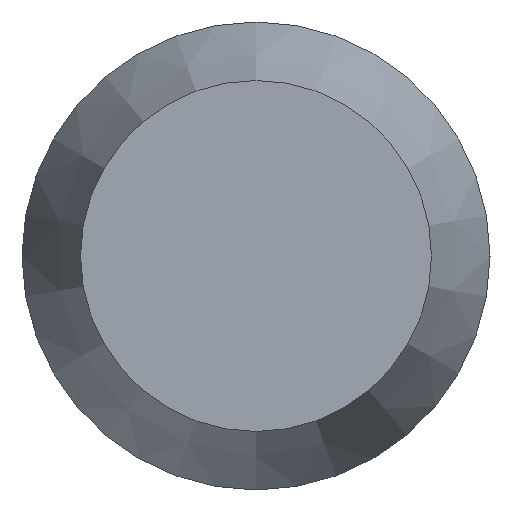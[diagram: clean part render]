
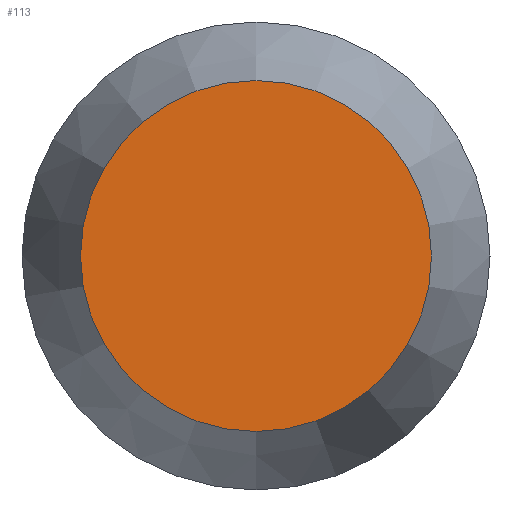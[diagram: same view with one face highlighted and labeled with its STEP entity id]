
A CAD part, left-side view. The second image highlights one B-rep face of the part: STEP entity #113.
In plain terms, the highlighted planar face has unit normal (-1, 0, 0).
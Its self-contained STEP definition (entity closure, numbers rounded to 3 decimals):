
#113=ADVANCED_FACE('',(#126),#122,.T.);
#122=PLANE('',#182);
#126=FACE_OUTER_BOUND('',#130,.T.);
#130=EDGE_LOOP('',(#144));
#144=ORIENTED_EDGE('',*,*,#165,.T.);
#158=VERTEX_POINT('',#234);
#165=EDGE_CURVE('',#158,#158,#172,.T.);
#172=CIRCLE('',#181,3.75);
#181=AXIS2_PLACEMENT_3D('',#233,#201,#202);
#182=AXIS2_PLACEMENT_3D('',#235,#203,#204);
#201=DIRECTION('',(-1.,0.,0.));
#202=DIRECTION('',(0.,0.,1.));
#203=DIRECTION('',(-1.,0.,0.));
#204=DIRECTION('',(0.,0.,1.));
#233=CARTESIAN_POINT('',(7893.912,6103.288,0.));
#234=CARTESIAN_POINT('',(7893.912,6103.288,3.75));
#235=CARTESIAN_POINT('',(7893.912,6103.288,0.));
